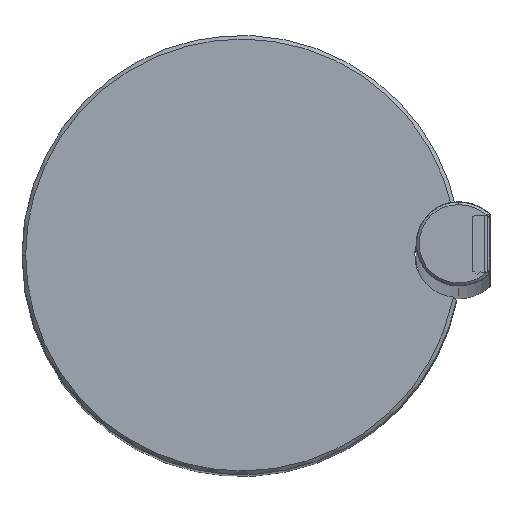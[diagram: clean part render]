
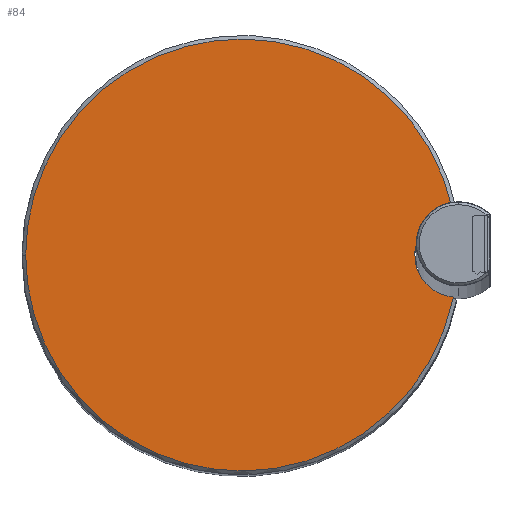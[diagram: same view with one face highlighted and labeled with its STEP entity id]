
A CAD part, top view. The second image highlights one B-rep face of the part: STEP entity #84.
In plain terms, the highlighted planar face has unit normal (0, 0, 1).
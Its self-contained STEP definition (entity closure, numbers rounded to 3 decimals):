
#84=ADVANCED_FACE('',(#209),#1886,.T.);
#209=FACE_OUTER_BOUND('',#334,.T.);
#334=EDGE_LOOP('',(#497,#498,#499));
#497=ORIENTED_EDGE('',*,*,#1104,.T.);
#498=ORIENTED_EDGE('',*,*,#1096,.T.);
#499=ORIENTED_EDGE('',*,*,#1082,.F.);
#1082=EDGE_CURVE('',#1701,#1702,#1560,.T.);
#1096=EDGE_CURVE('',#1710,#1702,#1565,.T.);
#1104=EDGE_CURVE('',#1701,#1710,#1568,.T.);
#1560=(
BOUNDED_CURVE()
B_SPLINE_CURVE(2,(#2420,#2421,#2422,#2423,#2424),.UNSPECIFIED.,.F.,.F.)
B_SPLINE_CURVE_WITH_KNOTS((3,2,3),(0.,86.909,173.818),
 .UNSPECIFIED.)
CURVE()
GEOMETRIC_REPRESENTATION_ITEM()
RATIONAL_B_SPLINE_CURVE((1.,0.741,1.,0.741,1.))
REPRESENTATION_ITEM('')
);
#1565=(
BOUNDED_CURVE()
B_SPLINE_CURVE(2,(#2471,#2472,#2473,#2474,#2475),.UNSPECIFIED.,.F.,.F.)
B_SPLINE_CURVE_WITH_KNOTS((3,2,3),(-173.818,-86.909,
0.),.UNSPECIFIED.)
CURVE()
GEOMETRIC_REPRESENTATION_ITEM()
RATIONAL_B_SPLINE_CURVE((1.,0.741,1.,0.741,1.))
REPRESENTATION_ITEM('')
);
#1568=(
BOUNDED_CURVE()
B_SPLINE_CURVE(2,(#2508,#2509,#2510,#2511,#2512),.UNSPECIFIED.,.F.,.F.)
B_SPLINE_CURVE_WITH_KNOTS((3,2,3),(-34.278,-17.139,
0.),.UNSPECIFIED.)
CURVE()
GEOMETRIC_REPRESENTATION_ITEM()
RATIONAL_B_SPLINE_CURVE((1.,0.735,1.,0.735,1.))
REPRESENTATION_ITEM('')
);
#1701=VERTEX_POINT('',#2405);
#1702=VERTEX_POINT('',#2406);
#1710=VERTEX_POINT('',#2414);
#1886=PLANE('',#2027);
#2027=AXIS2_PLACEMENT_3D('',#2347,#2069,$);
#2069=DIRECTION('',(0.,0.,1.));
#2347=CARTESIAN_POINT('',(-70.688,-77.532,302.));
#2405=CARTESIAN_POINT('',(57.876,-12.266,302.));
#2406=CARTESIAN_POINT('',(-59.,-0.804,302.));
#2414=CARTESIAN_POINT('',(57.876,10.659,302.));
#2420=CARTESIAN_POINT('',(57.876,-12.266,302.));
#2421=CARTESIAN_POINT('',(47.482,-64.744,302.));
#2422=CARTESIAN_POINT('',(-5.759,-59.522,302.));
#2423=CARTESIAN_POINT('',(-59.,-54.3,302.));
#2424=CARTESIAN_POINT('',(-59.,-0.804,302.));
#2471=CARTESIAN_POINT('',(57.876,10.659,302.));
#2472=CARTESIAN_POINT('',(47.482,63.136,302.));
#2473=CARTESIAN_POINT('',(-5.759,57.915,302.));
#2474=CARTESIAN_POINT('',(-59.,52.693,302.));
#2475=CARTESIAN_POINT('',(-59.,-0.804,302.));
#2508=CARTESIAN_POINT('',(57.876,-12.266,302.));
#2509=CARTESIAN_POINT('',(47.3,-11.414,302.));
#2510=CARTESIAN_POINT('',(47.3,-0.804,302.));
#2511=CARTESIAN_POINT('',(47.3,9.806,302.));
#2512=CARTESIAN_POINT('',(57.876,10.659,302.));
